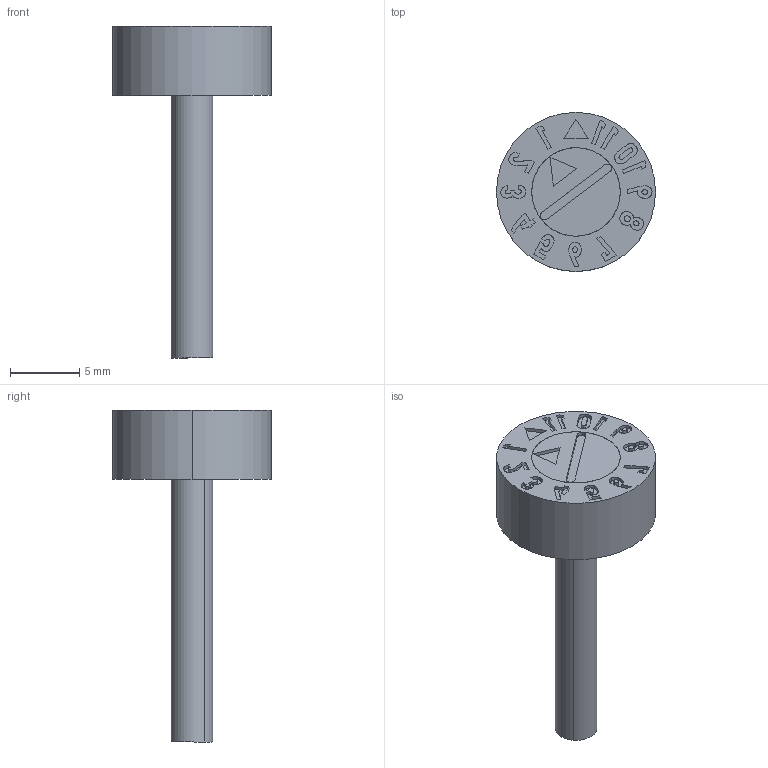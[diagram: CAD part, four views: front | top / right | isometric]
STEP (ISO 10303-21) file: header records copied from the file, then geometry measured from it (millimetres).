
FILE_DESCRIPTION (( 'STEP AP203' ), '1' );
FILE_NAME ('DMDP16.step', '2026-05-02T00:55:19', ( '' ), ( '' ), 'SwSTEP 2.0', 'SolidWorks 2023', '' );
FILE_SCHEMA (( 'CONFIG_CONTROL_DESIGN' ));
Length unit declared in the file: inch
Products named in the file (3): DMDP16; XDMDP16-AO; XDMDP16
Assembly tree (2 placements, depth 2):
  DMDP16
    XDMDP16-AO
    XDMDP16
Bounding box: 11.5 x 11.5 x 24 mm (x, y, z)
Volume: 644 mm3; surface area: 799.8 mm2
Topology: 2 solids, 2 shells, 227 faces, 600 edges, 400 vertices
Faces by surface type: plane 144, bspline 70, cylinder 13
Entity records: 9571 total; most frequent: CARTESIAN_POINT 4078, ORIENTED_EDGE 1200, DIRECTION 810, EDGE_CURVE 600, LINE 434, VECTOR 434, VERTEX_POINT 400, EDGE_LOOP 252
